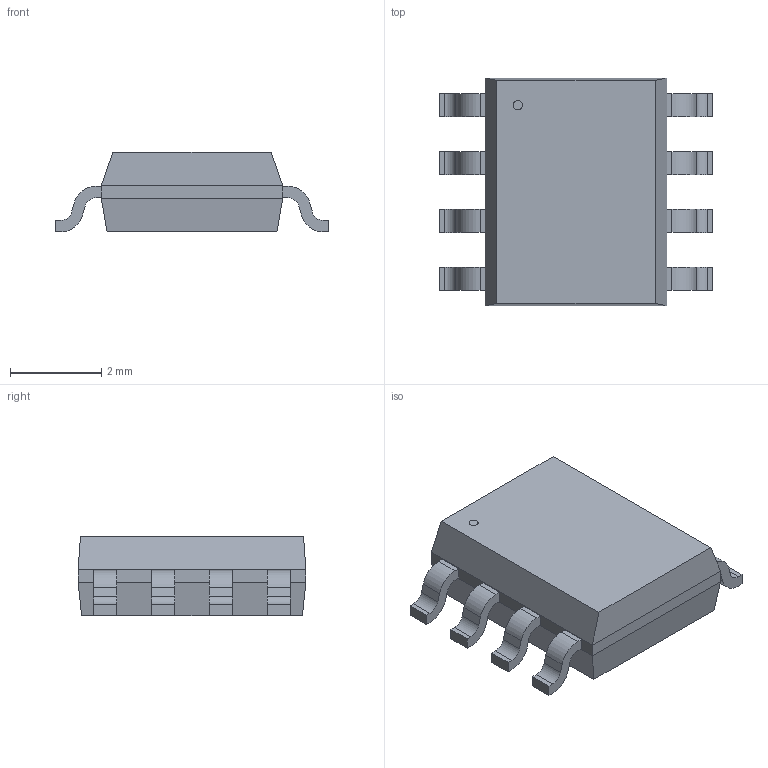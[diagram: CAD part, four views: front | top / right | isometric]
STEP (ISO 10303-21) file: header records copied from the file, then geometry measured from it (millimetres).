
FILE_DESCRIPTION(('STEP AP214'),'1');
FILE_NAME('APS6404L-3SQR-SN_APY','2025-12-27T09:25:05',(''),(''),'','','');
FILE_SCHEMA(('AUTOMOTIVE_DESIGN'));
Length unit declared in the file: millimetre
Products named in the file (1): product
Bounding box: 6 x 5 x 1.75 mm (x, y, z)
Volume: 34.7 mm3; surface area: 85.8 mm2
Topology: 10 solids, 10 shells, 129 faces, 319 edges, 210 vertices
Faces by surface type: plane 96, cylinder 33
Full cylindrical faces by diameter (mm): 0.199 x1
Entity records: 3789 total; most frequent: DIRECTION 646, ORIENTED_EDGE 636, CARTESIAN_POINT 375, EDGE_CURVE 318, LINE 252, VECTOR 252, VERTEX_POINT 210, AXIS2_PLACEMENT_3D 197
